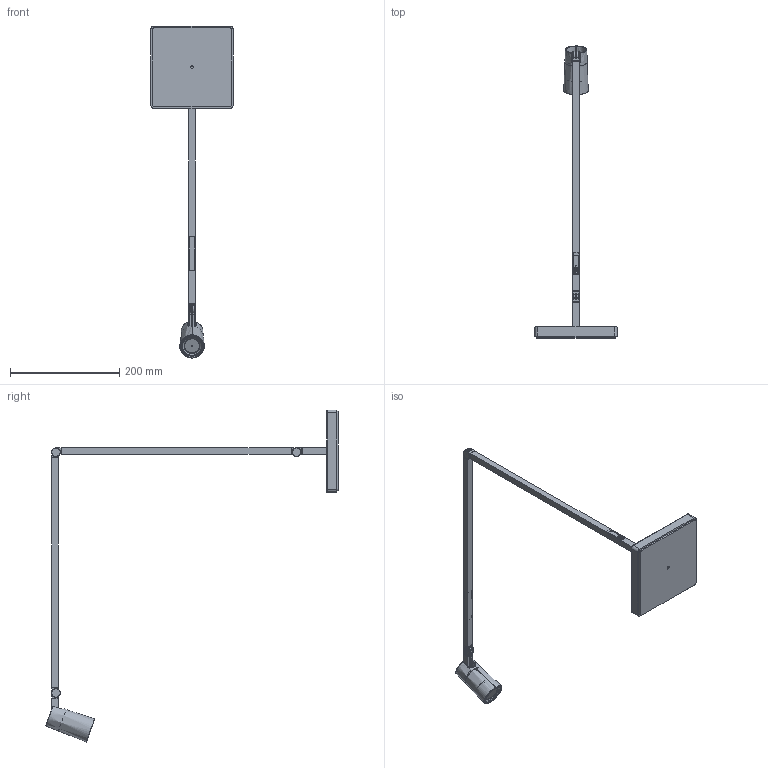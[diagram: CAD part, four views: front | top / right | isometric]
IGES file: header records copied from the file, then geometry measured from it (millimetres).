
Start section: SolidWorks IGES file using analytic representation for surfaces
Global section: file name: C:\Users\merba.NEMOLIGHTING\Desktop\Nuova cartella\UNTITLED SPOT TABLE.IGS; native system: SolidWorks 2016; preprocessor: SolidWorks 2016; author: merba; date: 200921.115918; units: millimetre
Bounding box: 150.31 x 535.02 x 607.36 mm (x, y, z)
Surface area: 211867.2 mm2 (no closed solid volume)
Topology: 0 solids, 0 shells, 2384 faces, 23206 edges, 23187 vertices
Faces by surface type: bspline 1489, revolution 895
